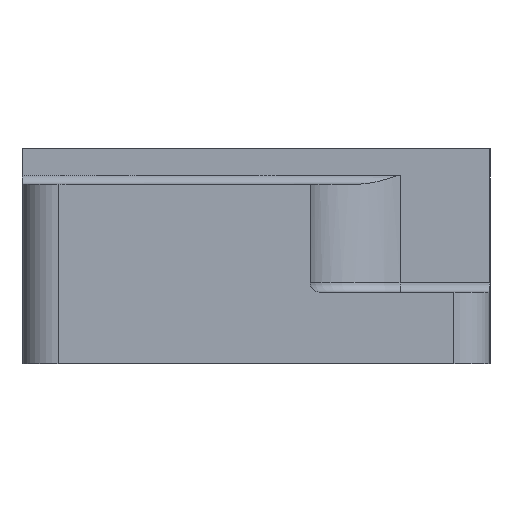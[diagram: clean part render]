
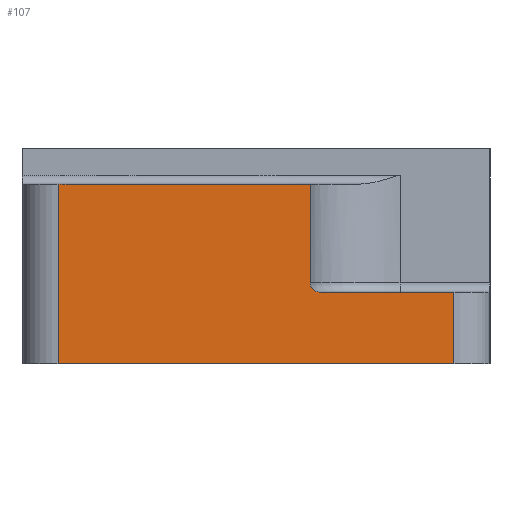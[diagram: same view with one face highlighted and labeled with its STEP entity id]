
A CAD part, left-side view. The second image highlights one B-rep face of the part: STEP entity #107.
In plain terms, the highlighted planar face has unit normal (-1, 0, 0).
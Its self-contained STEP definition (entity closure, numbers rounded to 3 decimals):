
#107=ADVANCED_FACE('',(#747),#749,.T.);
#747=FACE_BOUND('',#748,.T.);
#748=EDGE_LOOP('',(#1292,#1293,#1294,#1295,#1296,#1297,#1298));
#749=PLANE('',#750);
#750=AXIS2_PLACEMENT_3D('',#751,#752,#753);
#751=CARTESIAN_POINT('',(-70.,11.,0.));
#752=DIRECTION('',(-1.,0.,0.));
#753=DIRECTION('',(0.,-1.,0.));
#1292=ORIENTED_EDGE('',*,*,#1577,.F.);
#1293=ORIENTED_EDGE('',*,*,#1578,.T.);
#1294=ORIENTED_EDGE('',*,*,#1579,.T.);
#1295=ORIENTED_EDGE('',*,*,#1580,.F.);
#1296=ORIENTED_EDGE('',*,*,#1548,.T.);
#1297=ORIENTED_EDGE('',*,*,#1576,.T.);
#1298=ORIENTED_EDGE('',*,*,#1581,.T.);
#1548=EDGE_CURVE('',#1698,#1696,#1699,.T.);
#1576=EDGE_CURVE('',#1696,#1749,#1751,.T.);
#1577=EDGE_CURVE('',#1752,#1753,#1754,.F.);
#1578=EDGE_CURVE('',#1752,#1755,#1756,.F.);
#1579=EDGE_CURVE('',#1755,#1757,#1758,.T.);
#1580=EDGE_CURVE('',#1698,#1757,#1759,.T.);
#1581=EDGE_CURVE('',#1749,#1753,#1760,.T.);
#1696=VERTEX_POINT('',#1951);
#1698=VERTEX_POINT('',#1956);
#1699=LINE('',#1957,#1958);
#1749=VERTEX_POINT('',#2077);
#1751=LINE('',#2082,#2083);
#1752=VERTEX_POINT('',#2085);
#1753=VERTEX_POINT('',#2086);
#1754=CIRCLE('',#2087,0.5);
#1755=VERTEX_POINT('',#2091);
#1756=LINE('',#2092,#2093);
#1757=VERTEX_POINT('',#2095);
#1758=LINE('',#2096,#2097);
#1759=LINE('',#2099,#2100);
#1760=LINE('',#2102,#2103);
#1951=CARTESIAN_POINT('',(-70.,-11.,0.));
#1956=CARTESIAN_POINT('',(-70.,11.,0.));
#1957=CARTESIAN_POINT('',(-70.,11.,0.));
#1958=VECTOR('',#1959,1.);
#1959=DIRECTION('',(0.,-1.,0.));
#2077=CARTESIAN_POINT('',(-70.,-11.,4.));
#2082=CARTESIAN_POINT('',(-70.,-11.,0.));
#2083=VECTOR('',#2084,1.);
#2084=DIRECTION('',(0.,0.,1.));
#2085=CARTESIAN_POINT('',(-70.,-3.,4.5));
#2086=CARTESIAN_POINT('',(-70.,-3.5,4.));
#2087=AXIS2_PLACEMENT_3D('',#2088,#2089,#2090);
#2088=CARTESIAN_POINT('',(-70.,-3.5,4.5));
#2089=DIRECTION('',(1.,0.,0.));
#2090=DIRECTION('',(0.,0.,-1.));
#2091=CARTESIAN_POINT('',(-70.,-3.,10.));
#2092=CARTESIAN_POINT('',(-70.,-3.,10.));
#2093=VECTOR('',#2094,1.);
#2094=DIRECTION('',(0.,0.,-1.));
#2095=CARTESIAN_POINT('',(-70.,11.,10.));
#2096=CARTESIAN_POINT('',(-70.,-3.,10.));
#2097=VECTOR('',#2098,1.);
#2098=DIRECTION('',(0.,1.,0.));
#2099=CARTESIAN_POINT('',(-70.,11.,0.));
#2100=VECTOR('',#2101,1.);
#2101=DIRECTION('',(0.,0.,1.));
#2102=CARTESIAN_POINT('',(-70.,-11.,4.));
#2103=VECTOR('',#2104,1.);
#2104=DIRECTION('',(0.,1.,0.));
